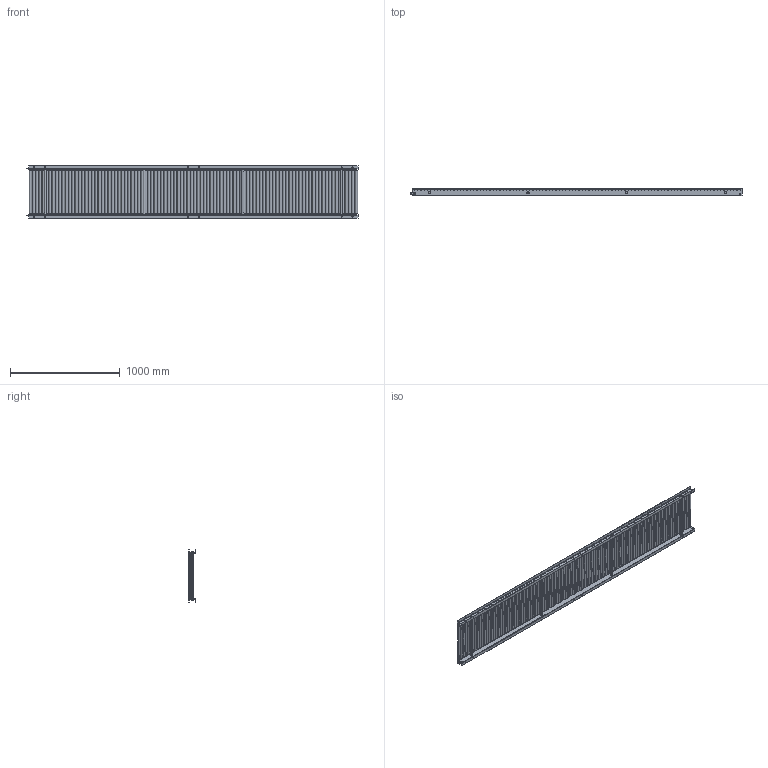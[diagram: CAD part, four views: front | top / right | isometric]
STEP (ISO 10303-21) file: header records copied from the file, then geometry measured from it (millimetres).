
FILE_DESCRIPTION (( 'STEP AP203' ), '1' );
FILE_NAME ('RZ-2212P.step', '2024-02-26T06:40:16', ( '' ), ( '' ), 'SwSTEP 2.0', 'SolidWorks 2023', '' );
FILE_SCHEMA (( 'CONFIG_CONTROL_DESIGN' ));
Length unit declared in the file: millimetre
Products named in the file (1): RZ-2212P
Bounding box: 3025 x 63.09 x 475 mm (x, y, z)
Volume: 16736575.8 mm3; surface area: 6660281.1 mm2
Topology: 224 solids, 224 shells, 3420 faces, 7812 edges, 5048 vertices
Faces by surface type: cylinder 1712, plane 1260, torus 400, cone 48
Entity records: 99871 total; most frequent: DIRECTION 19198, CARTESIAN_POINT 16953, ORIENTED_EDGE 15624, AXIS2_PLACEMENT_3D 8093, EDGE_CURVE 7812, VERTEX_POINT 5048, CIRCLE 4672, EDGE_LOOP 4492
